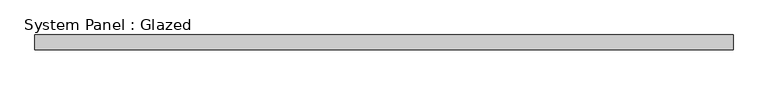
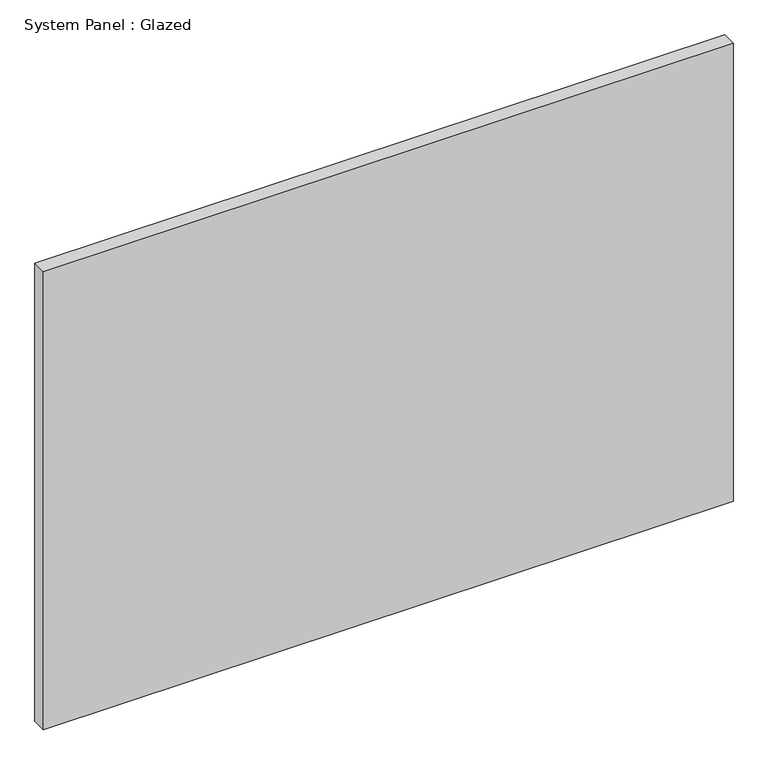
"""IFC4 building model written with IfcOpenShell, lengths in millimetres: plate geometry, System Panel : Glazed."""

from ifc_helpers import new_model, si_unit, origin, origin_with_axes, place, context, project, spatial, polyline, outline, extrude, source, transform, mapped, element, save


def system_panel_glazed_83de327d(model_context):
    return source(origin(), model_context, "Body", "SweptSolid", [
        extrude(outline(polyline([(587.5, 24.5), (-587.5, 24.5), (-587.5, 49.5), (587.5, 49.5), (587.5, 24.5)])), origin_with_axes(), (0.0, 0.0, 1.0), 825.0),
    ])


if __name__ == "__main__":
    model = new_model("IFC4")
    model_context = context("Model", 3, world=origin())
    ifc_project = project(units=[si_unit("LENGTHUNIT", "METRE", prefix="MILLI")], contexts=[model_context])
    site = spatial("IfcSite", under=ifc_project)
    building = spatial("IfcBuilding", under=site)
    placement = place(None, origin())
    system_panel_glazed_shape = system_panel_glazed_83de327d(model_context)
    element("IfcPlate", 1, ObjectType="System Panel : Glazed", at=placement, inside=building, context=model_context, shape_type="MappedRepresentation", body=[
        mapped(system_panel_glazed_shape, transform((0.0, 0.0, 0.0), x_axis=(1.0, 0.0, 0.0), y_axis=(0.0, 1.0, 0.0), z_axis=(0.0, 0.0, 1.0))),
    ])
    save(model, "model.ifc")
